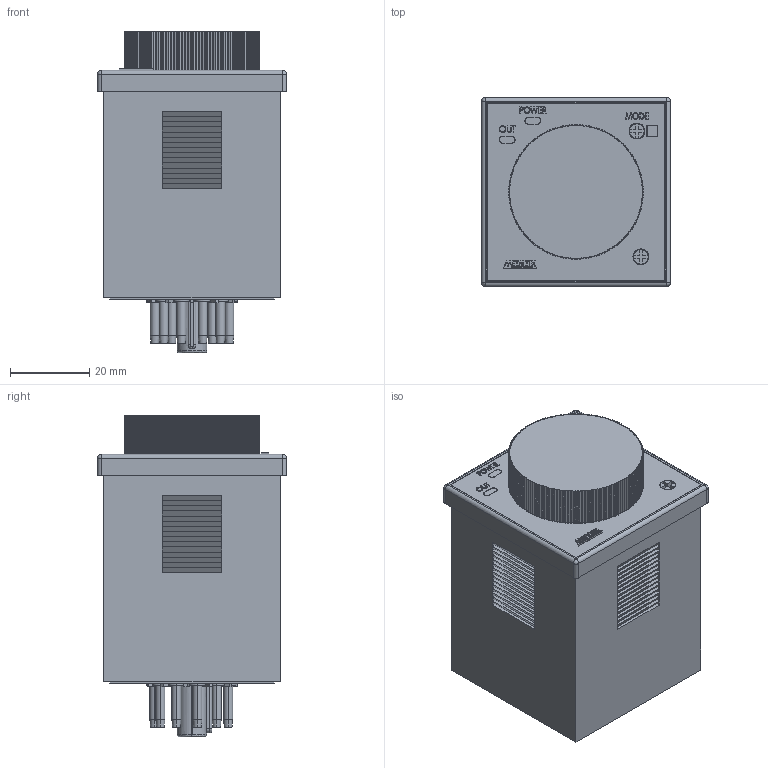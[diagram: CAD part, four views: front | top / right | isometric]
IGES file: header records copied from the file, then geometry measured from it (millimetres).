
Start section: SolidWorks IGES file using analytic representation for surfaces
Global section: file name: D:\X - Arquivos\PROEX\Empresas\P11 - METALTEX\01 - Produtos\IGES\6ª remessa\2ª etapa\TA-11DN.IGS; native system: SolidWorks 2012; preprocessor: SolidWorks 2012; author: Usuario; date: 190213.183001; units: millimetre
Bounding box: 47.8 x 47.8 x 81.3 mm (x, y, z)
Surface area: 22452.9 mm2 (no closed solid volume)
Topology: 0 solids, 0 shells, 1586 faces, 15686 edges, 15682 vertices
Faces by surface type: bspline 1049, revolution 537
